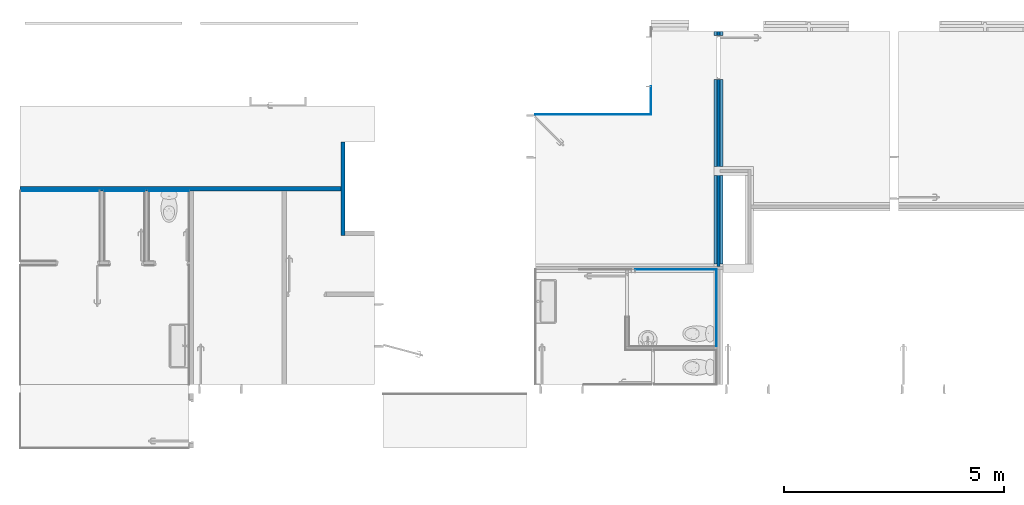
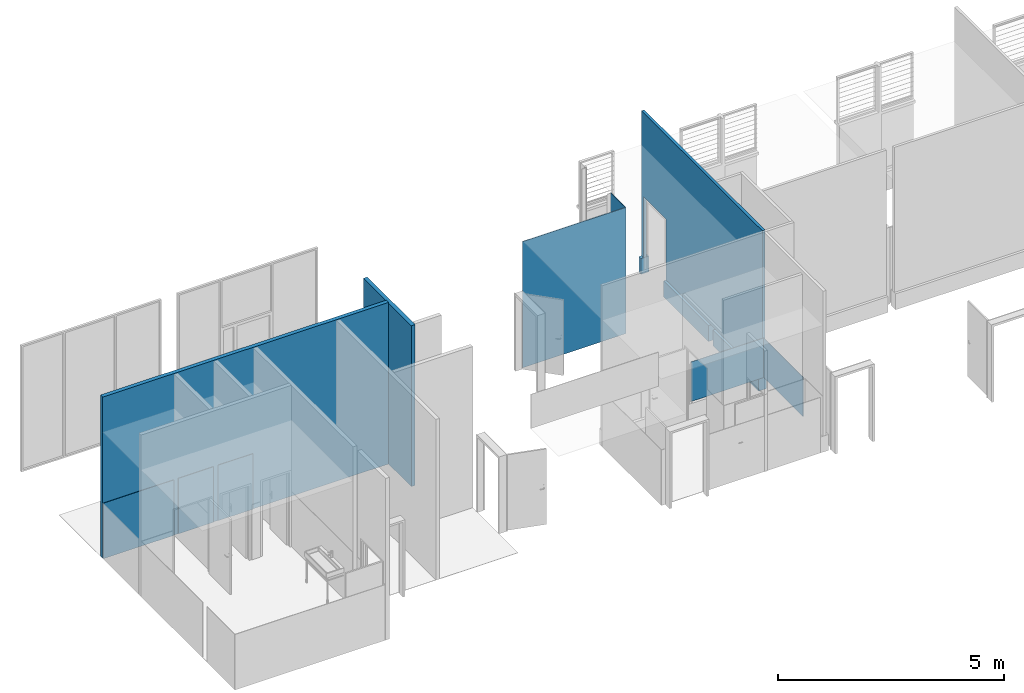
# One storey, part 6 of 18: 12 walls, 2 openings.
"""IFC2X3 building model written with IfcOpenShell, lengths in metres."""

from ifc_helpers import new_model, entity, si_unit, converted_unit, derived_unit, direction, frame, frame_2d, origin, place, context, subcontext, project, spatial, rectangle, extrude, material, layer, layer_set, layer_usage, type_object, element, save


model = new_model("IFC2X3")

# Units and contexts
model_context = context("Model", 3, precision=1e-05, world=origin(), true_north=direction((6.12303176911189e-17, 1.0)))
body_context = subcontext(model_context, "Body", "Model", "MODEL_VIEW")
ifc_project = project(units=[si_unit("LENGTHUNIT", "METRE"), si_unit("AREAUNIT", "SQUARE_METRE"), si_unit("VOLUMEUNIT", "CUBIC_METRE"), converted_unit("PLANEANGLEUNIT", "DEGREE", entity("IfcRatioMeasure", 0.0174532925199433), si_unit("PLANEANGLEUNIT", "RADIAN"), dimensions=[0, 0, 0, 0, 0, 0, 0]), si_unit("MASSUNIT", "GRAM", prefix="KILO"), derived_unit("MASSDENSITYUNIT", [(si_unit("MASSUNIT", "GRAM", prefix="KILO"), 1), (si_unit("LENGTHUNIT", "METRE"), -3)]), si_unit("TIMEUNIT", "SECOND"), si_unit("FREQUENCYUNIT", "HERTZ"), si_unit("THERMODYNAMICTEMPERATUREUNIT", "DEGREE_CELSIUS"), derived_unit("THERMALTRANSMITTANCEUNIT", [(si_unit("MASSUNIT", "GRAM", prefix="KILO"), 1), (si_unit("THERMODYNAMICTEMPERATUREUNIT", "KELVIN"), -1), (si_unit("TIMEUNIT", "SECOND"), -3)]), derived_unit("VOLUMETRICFLOWRATEUNIT", [(si_unit("LENGTHUNIT", "METRE"), 3), (si_unit("TIMEUNIT", "SECOND"), -1)]), si_unit("ELECTRICCURRENTUNIT", "AMPERE"), si_unit("ELECTRICVOLTAGEUNIT", "VOLT"), si_unit("POWERUNIT", "WATT"), si_unit("FORCEUNIT", "NEWTON", prefix="KILO"), si_unit("ILLUMINANCEUNIT", "LUX"), si_unit("LUMINOUSFLUXUNIT", "LUMEN"), si_unit("LUMINOUSINTENSITYUNIT", "CANDELA"), derived_unit("USERDEFINED", [(si_unit("MASSUNIT", "GRAM", prefix="KILO"), -1), (si_unit("LENGTHUNIT", "METRE"), -2), (si_unit("TIMEUNIT", "SECOND"), 3), (si_unit("LUMINOUSFLUXUNIT", "LUMEN"), 1)]), derived_unit("LINEARVELOCITYUNIT", [(si_unit("LENGTHUNIT", "METRE"), 1), (si_unit("TIMEUNIT", "SECOND"), -1)]), si_unit("PRESSUREUNIT", "PASCAL"), derived_unit("USERDEFINED", [(si_unit("LENGTHUNIT", "METRE"), -2), (si_unit("MASSUNIT", "GRAM", prefix="KILO"), 1), (si_unit("TIMEUNIT", "SECOND"), -2)])], contexts=[model_context])

# Site, building, storey
site_placement = place(None, origin())
site = spatial("IfcSite", under=ifc_project, at=site_placement, Name="Surface", CompositionType="ELEMENT")
building_placement = place(site_placement, origin())
building = spatial("IfcBuilding", under=site, at=building_placement, Name="ExPREF", CompositionType="ELEMENT")
storey_placement = place(building_placement, frame((0.0, 0.0, -4.62)))
storey = spatial("IfcBuildingStorey", under=building, at=storey_placement, Name="R-1", CompositionType="ELEMENT", Elevation=-4.62)

# Wall, opening
ifc_material_1 = material(Name="AA-fermacell peint")
ifc_layer_1 = layer(ifc_material_1, 0.0125)
ifc_material_2 = material(Name="AA-isolant plancher")
ifc_layer_2 = layer(ifc_material_2, 0.045)
ifc_layer_3 = layer(ifc_material_1, 0.0125)
ifc_layer_set_1 = layer_set([ifc_layer_1, ifc_layer_2, ifc_layer_3], Name="Mur de base:Générique - Int. 70 mm")
ifc_layer_usage_1 = layer_usage(ifc_layer_set_1, "AXIS2", "NEGATIVE", 0.035)
wall_type_1 = type_object("IfcWallType", Name="Mur de base:Générique - Int. 70 mm", PredefinedType="STANDARD", material=ifc_layer_set_1)
wall_1_placement = place(storey_placement, frame((49.489743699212, -185.214488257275, 0.43), z_axis=(0.0, 0.0, 1.0), x_axis=(0.0, -1.0, 0.0)))
wall_1 = element("IfcWallStandardCase", 1, at=wall_1_placement, inside=storey, type_object=wall_type_1, material=ifc_layer_usage_1, Name="Mur de base:Générique - Int. 70 mm", ObjectType="Mur de base:Générique - Int. 70 mm", context=body_context, shape_type="SweptSolid", body=[
    extrude(rectangle(XDim=5.34858167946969, YDim=0.0700000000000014, at=frame_2d((2.67429083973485, 0.0), x_axis=(-1.0, 0.0))), origin(), (0.0, 0.0, 1.0), 3.9149999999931),
])
opening_1_placement = place(wall_1_placement, frame((0.0919999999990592, -0.0350000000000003, -0.430000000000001)))
element("IfcOpeningElement", 2, at=opening_1_placement, cuts=wall_1, Name="Porte intérieur bois:PP (0.93m x 2.04m):1", ObjectType="Opening", context=body_context, shape_type="SweptSolid", body=[
    extrude(rectangle(XDim=2.075, YDim=1.0, at=frame_2d((1.0375, 0.5), x_axis=(1.0, 0.0))), frame((0.0, 0.0, 0.0), z_axis=(0.0, 1.0, 0.0), x_axis=(0.0, 0.0, 1.0)), (0.0, 0.0, 1.0), 0.07),
])

ifc_material_3 = material(Name="AA-mur parpaing 20")
ifc_layer_4 = layer(ifc_material_3, 0.2)
ifc_layer_set_2 = layer_set([ifc_layer_4], Name="Mur de base:A-mur parpaing 20")
ifc_layer_usage_2 = layer_usage(ifc_layer_set_2, "AXIS2", "NEGATIVE", 0.1)
wall_type_2 = type_object("IfcWallType", Name="Mur de base:A-mur parpaing 20", PredefinedType="STANDARD", material=ifc_layer_set_2)
wall_2_placement = place(storey_placement, frame((49.489743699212, -185.214488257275, 0.0), z_axis=(0.0, 0.0, 1.0), x_axis=(0.0, -1.0, 0.0)))
wall_2 = element("IfcWallStandardCase", 3, at=wall_2_placement, inside=storey, type_object=wall_type_2, material=ifc_layer_usage_2, Name="Mur de base:A-mur parpaing 20", ObjectType="Mur de base:A-mur parpaing 20", context=body_context, shape_type="SweptSolid", body=[
    extrude(rectangle(XDim=3.0815815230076, YDim=0.200000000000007, at=frame_2d((1.5407907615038, 0.0), x_axis=(-1.0, 0.0))), origin(), (0.0, 0.0, 1.0), 0.43),
])
opening_2_placement = place(wall_2_placement, frame((1.09199999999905, -1.489, 0.0)))
element("IfcOpeningElement", 4, at=opening_2_placement, cuts=wall_2, Name="Mur de base:A-mur parpaing 20", ObjectType="Opening", context=body_context, shape_type="SweptSolid", body=[
    extrude(rectangle(XDim=2.075, YDim=1.00000000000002, at=frame_2d((3.33066907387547e-16, 1.73472347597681e-14), x_axis=(1.0, 0.0))), frame((-0.500000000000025, 0.0, 1.0375), z_axis=(0.0, 1.0, 0.0), x_axis=(0.0, 0.0, 1.0)), (0.0, 0.0, 1.0), 3.048),
])

# Walls
ifc_layer_usage_3 = layer_usage(ifc_layer_set_2, "AXIS2", "NEGATIVE", 0.1)
wall_3_placement = place(storey_placement, frame((49.489743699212, -188.496069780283, 0.0), z_axis=(0.0, 0.0, 1.0), x_axis=(0.0, -1.0, 0.0)))
element("IfcWallStandardCase", 5, at=wall_3_placement, inside=storey, type_object=wall_type_2, material=ifc_layer_usage_3, Name="Mur de base:A-mur parpaing 20", ObjectType="Mur de base:A-mur parpaing 20", context=body_context, shape_type="SweptSolid", body=[
    extrude(rectangle(XDim=2.01399984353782, YDim=0.200000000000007, at=frame_2d((1.00699992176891, 0.0), x_axis=(-1.0, 0.0))), origin(), (0.0, 0.0, 1.0), 0.43),
])
ifc_material_4 = material(Name="AA-parpaing")
ifc_layer_5 = layer(ifc_material_4, 0.1)
ifc_layer_set_3 = layer_set([ifc_layer_5], Name="Mur de base:A-mur parpaing 10")
ifc_layer_usage_4 = layer_usage(ifc_layer_set_3, "AXIS2", "NEGATIVE", 0.05)
wall_type_3 = type_object("IfcWallType", Name="Mur de base:A-mur parpaing 10", PredefinedType="STANDARD", material=ifc_layer_set_3)
wall_4_placement = place(storey_placement, frame((33.5897436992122, -188.798464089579, 0.0)))
element("IfcWallStandardCase", 6, at=wall_4_placement, inside=storey, type_object=wall_type_3, material=ifc_layer_usage_4, Name="Mur de base:A-mur parpaing 10", ObjectType="Mur de base:A-mur parpaing 10", context=body_context, shape_type="SweptSolid", body=[
    extrude(rectangle(XDim=7.30299999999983, YDim=0.0999999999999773, at=frame_2d((3.65149999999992, 0.0), x_axis=(-1.0, 0.0))), origin(), (0.0, 0.0, 1.0), 4.3649999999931),
])
ifc_layer_usage_5 = layer_usage(ifc_layer_set_3, "AXIS2", "POSITIVE", -0.05)
wall_5_placement = place(storey_placement, frame((40.942743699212, -187.739069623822, 0.0), z_axis=(0.0, 0.0, 1.0), x_axis=(0.0, -1.0, 0.0)))
element("IfcWallStandardCase", 7, at=wall_5_placement, inside=storey, type_object=wall_type_3, material=ifc_layer_usage_5, Name="Mur de base:A-mur parpaing 10", ObjectType="Mur de base:A-mur parpaing 10", context=body_context, shape_type="SweptSolid", body=[
    extrude(rectangle(XDim=2.11899999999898, YDim=0.0999999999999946, at=frame_2d((1.05949999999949, 0.0), x_axis=(-1.0, 0.0))), origin(), (0.0, 0.0, 1.0), 4.3449999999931),
])
ifc_layer_6 = layer(ifc_material_1, 0.0125)
ifc_layer_set_4 = layer_set([ifc_layer_6], Name="Mur de base:A-plaque FC")
ifc_layer_usage_6 = layer_usage(ifc_layer_set_4, "AXIS2", "NEGATIVE", 0.00625)
wall_type_4 = type_object("IfcWallType", Name="Mur de base:A-plaque FC", PredefinedType="STANDARD", material=ifc_layer_set_4)
wall_6_placement = place(storey_placement, frame((45.3197436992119, -187.112738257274, 0.0)))
element("IfcWallStandardCase", 8, at=wall_6_placement, inside=storey, type_object=wall_type_4, material=ifc_layer_usage_6, Name="Mur de base:A-plaque FC", ObjectType="Mur de base:A-plaque FC", context=body_context, shape_type="SweptSolid", body=[
    extrude(rectangle(XDim=2.64250000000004, YDim=0.0125000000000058, at=frame_2d((1.32125000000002, 0.0), x_axis=(-1.0, 0.0))), origin(), (0.0, 0.0, 1.0), 3.41),
])
ifc_layer_usage_7 = layer_usage(ifc_layer_set_4, "AXIS2", "NEGATIVE", 0.00625)
wall_7_placement = place(storey_placement, frame((47.955993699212, -187.106488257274, 0.0), z_axis=(0.0, 0.0, 1.0), x_axis=(0.0, 1.0, 0.0)))
element("IfcWallStandardCase", 9, at=wall_7_placement, inside=storey, type_object=wall_type_4, material=ifc_layer_usage_7, Name="Mur de base:A-plaque FC", ObjectType="Mur de base:A-plaque FC", context=body_context, shape_type="SweptSolid", body=[
    extrude(rectangle(XDim=0.647500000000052, YDim=0.0125000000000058, at=frame_2d((0.323750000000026, 0.0), x_axis=(-1.0, 0.0))), origin(), (0.0, 0.0, 1.0), 3.41),
])
ifc_material_5 = material(Name="AA-sol carrelage")
ifc_layer_7 = layer(ifc_material_5, 0.01)
ifc_layer_set_5 = layer_set([ifc_layer_7], Name="Mur de base:A-carrelage")
ifc_layer_usage_8 = layer_usage(ifc_layer_set_5, "AXIS2", "NEGATIVE", 0.005)
wall_type_5 = type_object("IfcWallType", Name="Mur de base:A-carrelage", PredefinedType="STANDARD", material=ifc_layer_set_5)
wall_8_placement = place(storey_placement, frame((49.449743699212, -190.633069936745, 0.43), z_axis=(0.0, 0.0, 1.0), x_axis=(0.0, -1.0, 0.0)))
element("IfcWallStandardCase", 10, at=wall_8_placement, inside=storey, type_object=wall_type_5, material=ifc_layer_usage_8, Name="Mur de base:A-carrelage", ObjectType="Mur de base:A-carrelage", context=body_context, shape_type="SweptSolid", body=[
    extrude(rectangle(XDim=1.74658136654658, YDim=0.00999999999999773, at=frame_2d((0.873290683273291, 0.0), x_axis=(-1.0, 0.0))), origin(), (0.0, 0.0, 1.0), 1.07),
])
ifc_layer_usage_9 = layer_usage(ifc_layer_set_5, "AXIS2", "NEGATIVE", 0.005)
wall_9_placement = place(storey_placement, frame((47.5897436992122, -190.638069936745, 0.43)))
element("IfcWallStandardCase", 11, at=wall_9_placement, inside=storey, type_object=wall_type_5, material=ifc_layer_usage_9, Name="Mur de base:A-carrelage", ObjectType="Mur de base:A-carrelage", context=body_context, shape_type="SweptSolid", body=[
    extrude(rectangle(XDim=1.85499999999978, YDim=0.0100000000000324, at=frame_2d((0.927499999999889, 0.0), x_axis=(-1.0, 0.0))), origin(), (0.0, 0.0, 1.0), 1.07),
])
ifc_layer_usage_10 = layer_usage(ifc_layer_set_5, "AXIS2", "NEGATIVE", 0.005)
wall_10_placement = place(storey_placement, frame((36.5347436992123, -188.853464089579, 0.0)))
element("IfcWallStandardCase", 12, at=wall_10_placement, inside=storey, type_object=wall_type_5, material=ifc_layer_usage_10, Name="Mur de base:A-carrelage", ObjectType="Mur de base:A-carrelage", context=body_context, shape_type="SweptSolid", body=[
    extrude(rectangle(XDim=0.894999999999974, YDim=0.0100000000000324, at=frame_2d((0.447499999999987, 0.0), x_axis=(-1.0, 0.0))), origin(), (0.0, 0.0, 1.0), 1.5),
])
ifc_layer_usage_11 = layer_usage(ifc_layer_set_5, "AXIS2", "NEGATIVE", 0.005)
wall_11_placement = place(storey_placement, frame((35.5197436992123, -188.853464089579, 0.0)))
element("IfcWallStandardCase", 13, at=wall_11_placement, inside=storey, type_object=wall_type_5, material=ifc_layer_usage_11, Name="Mur de base:A-carrelage", ObjectType="Mur de base:A-carrelage", context=body_context, shape_type="SweptSolid", body=[
    extrude(rectangle(XDim=0.894999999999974, YDim=0.0100000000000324, at=frame_2d((0.447499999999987, 0.0), x_axis=(-1.0, 0.0))), origin(), (0.0, 0.0, 1.0), 1.5),
])
ifc_layer_usage_12 = layer_usage(ifc_layer_set_5, "AXIS2", "NEGATIVE", 0.005)
wall_12_placement = place(storey_placement, frame((33.5997436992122, -188.853464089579, 0.0)))
element("IfcWallStandardCase", 14, at=wall_12_placement, inside=storey, type_object=wall_type_5, material=ifc_layer_usage_12, Name="Mur de base:A-carrelage", ObjectType="Mur de base:A-carrelage", context=body_context, shape_type="SweptSolid", body=[
    extrude(rectangle(XDim=1.80000000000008, YDim=0.0100000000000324, at=frame_2d((0.90000000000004, 0.0), x_axis=(-1.0, 0.0))), origin(), (0.0, 0.0, 1.0), 1.5),
])

save(model, "model.ifc")
